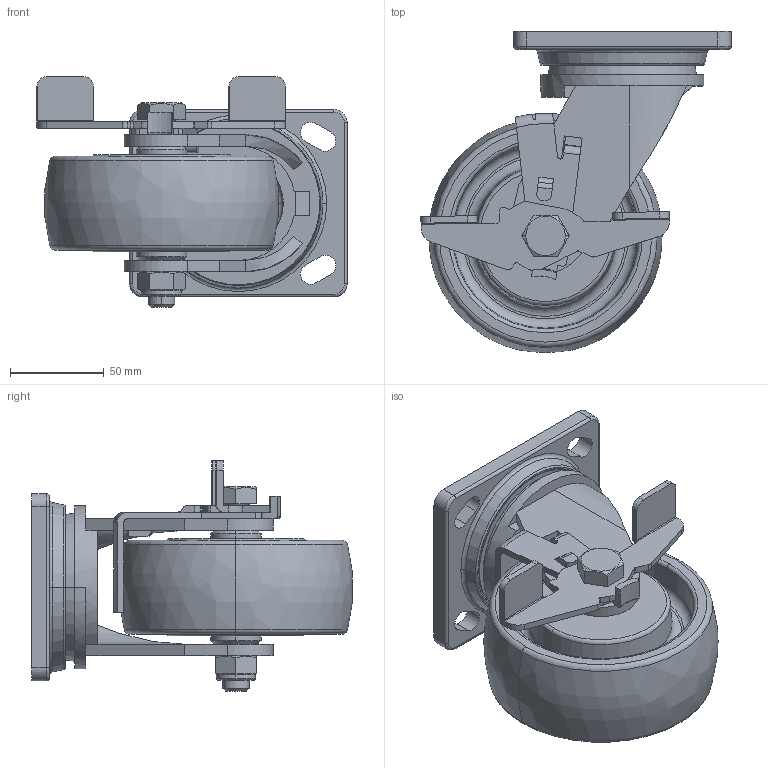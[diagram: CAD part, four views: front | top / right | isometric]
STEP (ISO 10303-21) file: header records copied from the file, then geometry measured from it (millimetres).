
FILE_DESCRIPTION((''),'2;1');
FILE_NAME('78125C_ASM','2021-06-02T',('lenovo'),(''),'PRO/ENGINEER BY PARAMETRIC TECHNOLOGY CORPORATION, 2010280','PRO/ENGINEER BY PARAMETRIC TECHNOLOGY CORPORATION, 2010280','');
FILE_SCHEMA(('CONFIG_CONTROL_DESIGN'));
Length unit declared in the file: millimetre
Products named in the file (9): 7810-201; 765C11; 7810-211; 765-926; 705-15; 700-14; 780C-33; 780-34; 78125C_ASM
Assembly tree (8 placements, depth 2):
  78125C_ASM
    7810-201
    765C11
    7810-211
    765-926
    705-15
    700-14
    780C-33
    780-34
Bounding box: 165.48 x 171.17 x 123 mm (x, y, z)
Volume: 782258.3 mm3; surface area: 156109.9 mm2
Topology: 9 solids, 9 shells, 433 faces, 1111 edges, 718 vertices
Faces by surface type: plane 255, cylinder 97, torus 46, cone 30, bspline 4, extrusion 1
Entity records: 13702 total; most frequent: CARTESIAN_POINT 2709, DIRECTION 2296, ORIENTED_EDGE 2222, EDGE_CURVE 1111, AXIS2_PLACEMENT_3D 773, VECTOR 750, LINE 749, VERTEX_POINT 718
